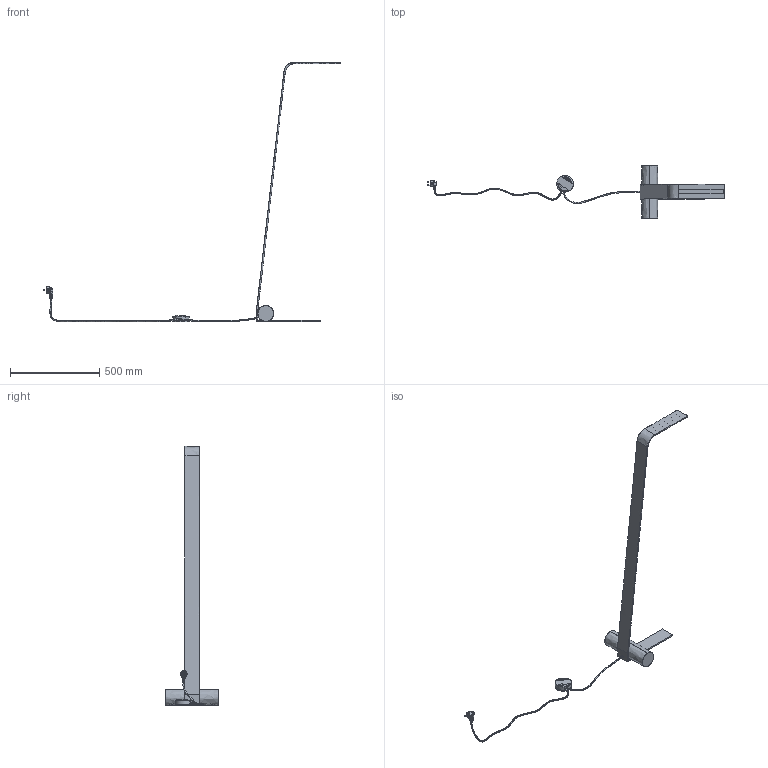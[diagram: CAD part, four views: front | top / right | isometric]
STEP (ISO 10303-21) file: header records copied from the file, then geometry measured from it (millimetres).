
FILE_DESCRIPTION(/* description */ (''),/* implementation_level */ '2;1');
FILE_NAME(/* name */ '57N9WI~O',/* time_stamp */ '2021-09-22T10:02:23+02:00',/* author */ (''),/* organization */ (''),/* preprocessor_version */ 'ST-DEVELOPER v15',/* originating_system */ '',/* authorisation */ '');
FILE_SCHEMA (('AUTOMOTIVE_DESIGN'));
Products named in the file (1): Document
Bounding box: 1669.09 x 298.2 x 1453.33 mm (x, y, z)
Volume: 1696700.3 mm3; surface area: 658410.5 mm2
Topology: 36 solids, 39 shells, 1707 faces, 4183 edges, 2563 vertices
Faces by surface type: bspline 1707
Entity records: 137136 total; most frequent: CARTESIAN_POINT 85768, B_SPLINE_CURVE_WITH_KNOTS 9658, ORIENTED_EDGE 8216, PCURVE 8216, DEFINITIONAL_REPRESENTATION 8216, SURFACE_CURVE 4150, EDGE_CURVE 4150, VERTEX_POINT 2563
